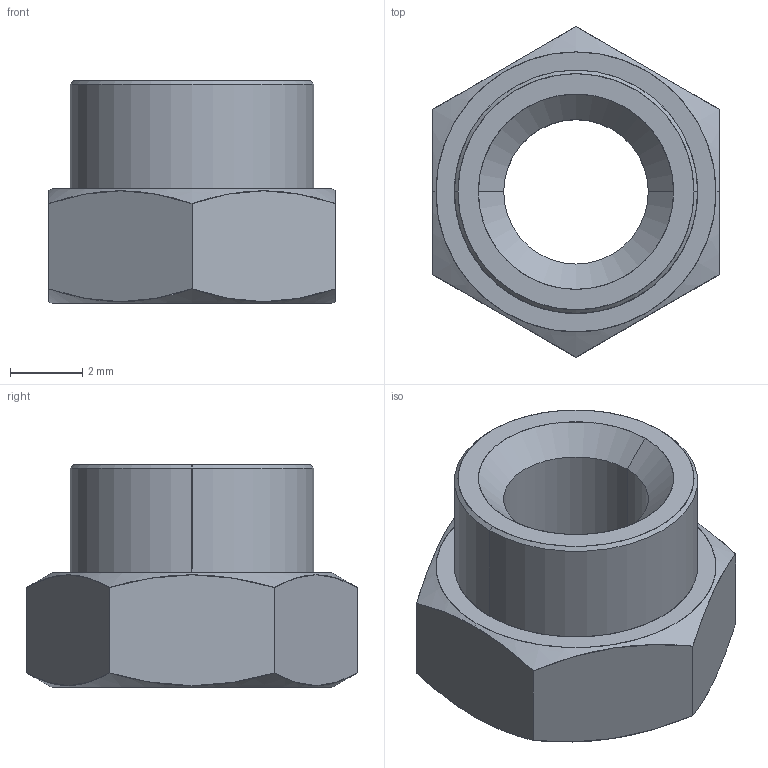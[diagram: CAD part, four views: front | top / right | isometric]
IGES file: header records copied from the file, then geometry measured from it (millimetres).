
Start section: SolidWorks IGES file using analytic representation for surfaces
Global section: file name: C:\Users\liam_\OneDrive\Desktop\Work\Mat Davis Pending 20181125\automotion\P SERIES\P0827.ZP_v2\P0827.ZP_v2_20181231_IGES\P0827.040-12G-ZP.igs; native system: SolidWorks 2017; preprocessor: SolidWorks 2017; author: liam_; date: 181231.110454; units: millimetre
Bounding box: 7.92 x 9.15 x 6.17 mm (x, y, z)
Surface area: 294 mm2 (no closed solid volume)
Topology: 0 solids, 0 shells, 23 faces, 376 edges, 376 vertices
Faces by surface type: revolution 14, bspline 9
